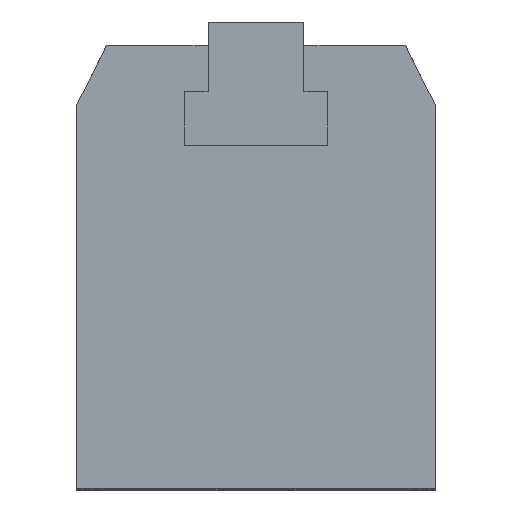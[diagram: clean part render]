
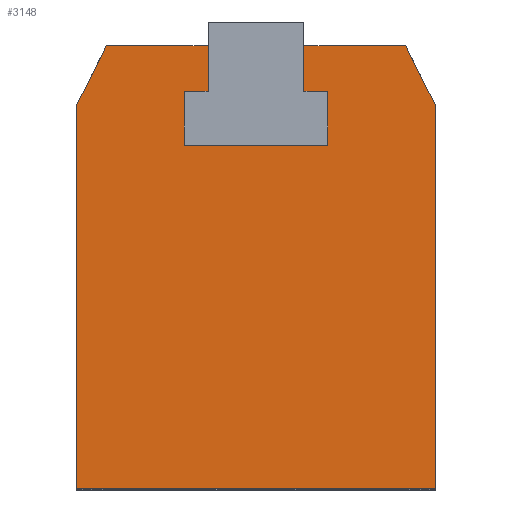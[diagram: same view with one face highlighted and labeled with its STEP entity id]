
A CAD part, top view. The second image highlights one B-rep face of the part: STEP entity #3148.
In plain terms, the highlighted planar face has unit normal (0, 0, 1).
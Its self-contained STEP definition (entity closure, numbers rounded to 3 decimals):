
#12 = CARTESIAN_POINT ( 'NONE',  ( 6., 28.7, 26. ) ) ;
#119 = CARTESIAN_POINT ( 'NONE',  ( -4., 37., 26. ) ) ;
#208 = VERTEX_POINT ( 'NONE', #2217 ) ;
#339 = VECTOR ( 'NONE', #3283, 1000. ) ;
#411 = CARTESIAN_POINT ( 'NONE',  ( -4., 33.2, 26. ) ) ;
#503 = VECTOR ( 'NONE', #5791, 1000. ) ;
#601 = EDGE_CURVE ( 'NONE', #4147, #6040, #2918, .T. ) ;
#625 = VERTEX_POINT ( 'NONE', #5315 ) ;
#750 = CARTESIAN_POINT ( 'NONE',  ( -12.5, 37., 26. ) ) ;
#756 = CARTESIAN_POINT ( 'NONE',  ( 4., 33.2, 26. ) ) ;
#757 = EDGE_CURVE ( 'NONE', #4860, #5817, #1435, .T. ) ;
#763 = CARTESIAN_POINT ( 'NONE',  ( -4., 39., 26. ) ) ;
#825 = CARTESIAN_POINT ( 'NONE',  ( -12.5, 37., 26. ) ) ;
#912 = VECTOR ( 'NONE', #3536, 1000. ) ;
#994 = DIRECTION ( 'NONE',  ( 0., 0., 1. ) ) ;
#1071 = ORIENTED_EDGE ( 'NONE', *, *, #1571, .T. ) ;
#1080 = EDGE_CURVE ( 'NONE', #4659, #6642, #3524, .T. ) ;
#1154 = LINE ( 'NONE', #756, #4273 ) ;
#1225 = VECTOR ( 'NONE', #3051, 1000. ) ;
#1263 = VECTOR ( 'NONE', #4771, 1000. ) ;
#1290 = VERTEX_POINT ( 'NONE', #411 ) ;
#1364 = EDGE_CURVE ( 'NONE', #6857, #4147, #4726, .T. ) ;
#1435 = LINE ( 'NONE', #4351, #5926 ) ;
#1547 = LINE ( 'NONE', #6132, #503 ) ;
#1571 = EDGE_CURVE ( 'NONE', #3380, #4659, #2905, .T. ) ;
#1574 = LINE ( 'NONE', #12, #6170 ) ;
#1605 = DIRECTION ( 'NONE',  ( 0., 1., 0. ) ) ;
#1611 = EDGE_CURVE ( 'NONE', #6857, #1290, #3240, .T. ) ;
#1642 = LINE ( 'NONE', #2744, #339 ) ;
#1827 = ORIENTED_EDGE ( 'NONE', *, *, #2716, .F. ) ;
#1869 = CARTESIAN_POINT ( 'NONE',  ( 15., 0., 26. ) ) ;
#1982 = CARTESIAN_POINT ( 'NONE',  ( -15., 32., 26. ) ) ;
#2090 = EDGE_CURVE ( 'NONE', #625, #5817, #1154, .T. ) ;
#2184 = VECTOR ( 'NONE', #3819, 1000. ) ;
#2217 = CARTESIAN_POINT ( 'NONE',  ( -6., 28.7, 26. ) ) ;
#2261 = DIRECTION ( 'NONE',  ( -1., 0., 0. ) ) ;
#2331 = DIRECTION ( 'NONE',  ( 0., -1., 0. ) ) ;
#2378 = CARTESIAN_POINT ( 'NONE',  ( -15., 0., 26. ) ) ;
#2397 = CARTESIAN_POINT ( 'NONE',  ( 4., 37., 26. ) ) ;
#2442 = EDGE_CURVE ( 'NONE', #6521, #208, #6353, .T. ) ;
#2474 = DIRECTION ( 'NONE',  ( 1., 0., 0. ) ) ;
#2716 = EDGE_CURVE ( 'NONE', #2771, #6467, #1574, .T. ) ;
#2744 = CARTESIAN_POINT ( 'NONE',  ( -4., 33.2, 26. ) ) ;
#2747 = CARTESIAN_POINT ( 'NONE',  ( -15., 32., 26. ) ) ;
#2771 = VERTEX_POINT ( 'NONE', #2792 ) ;
#2792 = CARTESIAN_POINT ( 'NONE',  ( 6., 28.7, 26. ) ) ;
#2905 = LINE ( 'NONE', #2378, #6710 ) ;
#2918 = LINE ( 'NONE', #825, #1263 ) ;
#2926 = EDGE_LOOP ( 'NONE', ( #5612, #3765, #1827, #3031, #6958, #5487, #2937, #4967, #5837, #3793, #1071, #6648, #3195, #3590 ) ) ;
#2937 = ORIENTED_EDGE ( 'NONE', *, *, #1611, .F. ) ;
#3031 = ORIENTED_EDGE ( 'NONE', *, *, #4719, .F. ) ;
#3048 = DIRECTION ( 'NONE',  ( 0., 1., 0. ) ) ;
#3051 = DIRECTION ( 'NONE',  ( 0., -1., 0. ) ) ;
#3121 = CARTESIAN_POINT ( 'NONE',  ( 6., 33.2, 26. ) ) ;
#3148 = ADVANCED_FACE ( 'NONE', ( #4436 ), #4366, .T. ) ;
#3195 = ORIENTED_EDGE ( 'NONE', *, *, #6887, .T. ) ;
#3221 = CARTESIAN_POINT ( 'NONE',  ( 12.5, 37., 26. ) ) ;
#3240 = LINE ( 'NONE', #763, #5317 ) ;
#3283 = DIRECTION ( 'NONE',  ( -1., 0., 0. ) ) ;
#3380 = VERTEX_POINT ( 'NONE', #4968 ) ;
#3524 = LINE ( 'NONE', #6355, #912 ) ;
#3536 = DIRECTION ( 'NONE',  ( 0., 1., 0. ) ) ;
#3581 = VECTOR ( 'NONE', #7022, 1000. ) ;
#3587 = EDGE_CURVE ( 'NONE', #6040, #3380, #4428, .T. ) ;
#3590 = ORIENTED_EDGE ( 'NONE', *, *, #757, .T. ) ;
#3591 = CARTESIAN_POINT ( 'NONE',  ( -6., 33.2, 26. ) ) ;
#3671 = CARTESIAN_POINT ( 'NONE',  ( 6., 33.2, 26. ) ) ;
#3765 = ORIENTED_EDGE ( 'NONE', *, *, #5942, .F. ) ;
#3777 = CARTESIAN_POINT ( 'NONE',  ( 0., 0., 26. ) ) ;
#3793 = ORIENTED_EDGE ( 'NONE', *, *, #3587, .T. ) ;
#3819 = DIRECTION ( 'NONE',  ( 0., -1., 0. ) ) ;
#3868 = CARTESIAN_POINT ( 'NONE',  ( -6., 33.2, 26. ) ) ;
#3905 = EDGE_CURVE ( 'NONE', #1290, #6521, #1642, .T. ) ;
#4147 = VERTEX_POINT ( 'NONE', #750 ) ;
#4273 = VECTOR ( 'NONE', #3048, 1000. ) ;
#4351 = CARTESIAN_POINT ( 'NONE',  ( 12.5, 37., 26. ) ) ;
#4366 = PLANE ( 'NONE',  #6563 ) ;
#4428 = LINE ( 'NONE', #1982, #1225 ) ;
#4436 = FACE_OUTER_BOUND ( 'NONE', #2926, .T. ) ;
#4515 = CARTESIAN_POINT ( 'NONE',  ( 12.5, 37., 26. ) ) ;
#4558 = DIRECTION ( 'NONE',  ( 1., 0., 0. ) ) ;
#4659 = VERTEX_POINT ( 'NONE', #1869 ) ;
#4677 = LINE ( 'NONE', #6890, #5363 ) ;
#4719 = EDGE_CURVE ( 'NONE', #208, #2771, #4677, .T. ) ;
#4726 = LINE ( 'NONE', #4515, #5834 ) ;
#4771 = DIRECTION ( 'NONE',  ( -0.447, -0.894, 0. ) ) ;
#4860 = VERTEX_POINT ( 'NONE', #3221 ) ;
#4967 = ORIENTED_EDGE ( 'NONE', *, *, #1364, .T. ) ;
#4968 = CARTESIAN_POINT ( 'NONE',  ( -15., 0., 26. ) ) ;
#5315 = CARTESIAN_POINT ( 'NONE',  ( 4., 33.2, 26. ) ) ;
#5317 = VECTOR ( 'NONE', #2331, 1000. ) ;
#5363 = VECTOR ( 'NONE', #2474, 1000. ) ;
#5398 = DIRECTION ( 'NONE',  ( 1., 0., 0. ) ) ;
#5487 = ORIENTED_EDGE ( 'NONE', *, *, #3905, .F. ) ;
#5612 = ORIENTED_EDGE ( 'NONE', *, *, #2090, .F. ) ;
#5791 = DIRECTION ( 'NONE',  ( -0.447, 0.894, 0. ) ) ;
#5817 = VERTEX_POINT ( 'NONE', #2397 ) ;
#5834 = VECTOR ( 'NONE', #2261, 1000. ) ;
#5837 = ORIENTED_EDGE ( 'NONE', *, *, #601, .T. ) ;
#5901 = LINE ( 'NONE', #3121, #3581 ) ;
#5926 = VECTOR ( 'NONE', #7012, 1000. ) ;
#5942 = EDGE_CURVE ( 'NONE', #6467, #625, #5901, .T. ) ;
#6040 = VERTEX_POINT ( 'NONE', #2747 ) ;
#6132 = CARTESIAN_POINT ( 'NONE',  ( 15., 32., 26. ) ) ;
#6170 = VECTOR ( 'NONE', #1605, 1000. ) ;
#6353 = LINE ( 'NONE', #3868, #2184 ) ;
#6355 = CARTESIAN_POINT ( 'NONE',  ( 15., 0., 26. ) ) ;
#6467 = VERTEX_POINT ( 'NONE', #3671 ) ;
#6521 = VERTEX_POINT ( 'NONE', #3591 ) ;
#6563 = AXIS2_PLACEMENT_3D ( 'NONE', #3777, #994, #5398 ) ;
#6642 = VERTEX_POINT ( 'NONE', #7010 ) ;
#6648 = ORIENTED_EDGE ( 'NONE', *, *, #1080, .T. ) ;
#6710 = VECTOR ( 'NONE', #4558, 1000. ) ;
#6857 = VERTEX_POINT ( 'NONE', #119 ) ;
#6887 = EDGE_CURVE ( 'NONE', #6642, #4860, #1547, .T. ) ;
#6890 = CARTESIAN_POINT ( 'NONE',  ( -6., 28.7, 26. ) ) ;
#6958 = ORIENTED_EDGE ( 'NONE', *, *, #2442, .F. ) ;
#7010 = CARTESIAN_POINT ( 'NONE',  ( 15., 32., 26. ) ) ;
#7012 = DIRECTION ( 'NONE',  ( -1., 0., 0. ) ) ;
#7022 = DIRECTION ( 'NONE',  ( -1., 0., 0. ) ) ;
